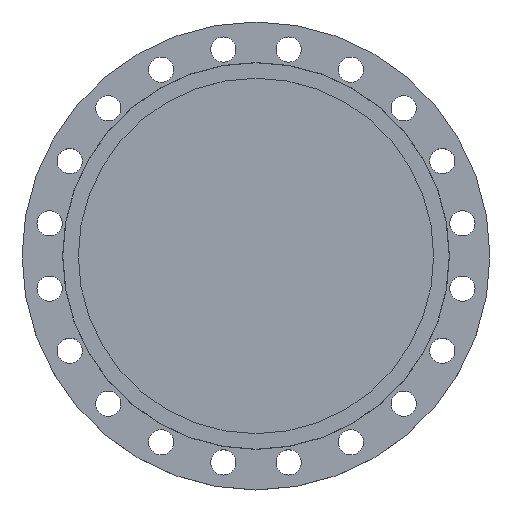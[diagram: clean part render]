
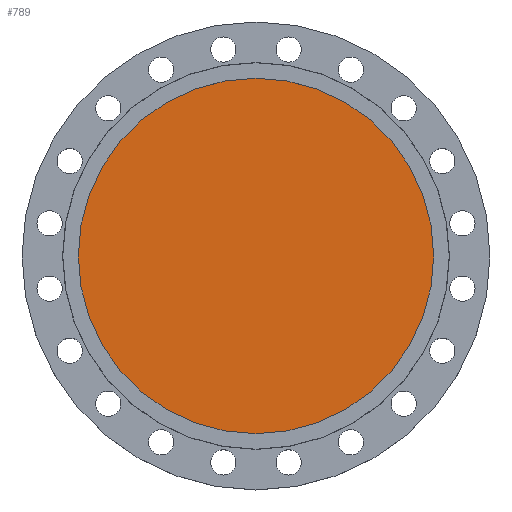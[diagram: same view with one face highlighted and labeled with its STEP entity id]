
A CAD part, top view. The second image highlights one B-rep face of the part: STEP entity #789.
In plain terms, the highlighted planar face has unit normal (0, 0, 1).
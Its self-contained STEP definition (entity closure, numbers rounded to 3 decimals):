
#127 = CARTESIAN_POINT ( 'NONE',  ( -338., 0., -5. ) ) ;
#137 = CARTESIAN_POINT ( 'NONE',  ( 338., 0., -5. ) ) ;
#152 = DIRECTION ( 'NONE',  ( 0., 0., -1. ) ) ;
#227 = AXIS2_PLACEMENT_3D ( 'NONE', #702, #701, #700 ) ;
#516 = AXIS2_PLACEMENT_3D ( 'NONE', #1242, #152, #871 ) ;
#540 = DIRECTION ( 'NONE',  ( -1., 0., 0. ) ) ;
#542 = DIRECTION ( 'NONE',  ( 0., 0., -1. ) ) ;
#543 = CARTESIAN_POINT ( 'NONE',  ( 0., 0., -5. ) ) ;
#588 = CIRCLE ( 'NONE', #516, 338. ) ;
#700 = DIRECTION ( 'NONE',  ( 1., 0., 0. ) ) ;
#701 = DIRECTION ( 'NONE',  ( 0., 0., 1. ) ) ;
#702 = CARTESIAN_POINT ( 'NONE',  ( 338., 0., -5. ) ) ;
#704 = PLANE ( 'NONE',  #227 ) ;
#706 = FACE_OUTER_BOUND ( 'NONE', #1074, .T. ) ;
#789 = ADVANCED_FACE ( 'NONE', ( #706 ), #704, .T. ) ;
#871 = DIRECTION ( 'NONE',  ( -1., 0., 0. ) ) ;
#1061 = EDGE_CURVE ( 'NONE', #1573, #1582, #1424, .T. ) ;
#1074 = EDGE_LOOP ( 'NONE', ( #1076, #1075 ) ) ;
#1075 = ORIENTED_EDGE ( 'NONE', *, *, #1061, .F. ) ;
#1076 = ORIENTED_EDGE ( 'NONE', *, *, #1767, .F. ) ;
#1242 = CARTESIAN_POINT ( 'NONE',  ( 0., 0., -5. ) ) ;
#1424 = CIRCLE ( 'NONE', #1426, 338. ) ;
#1426 = AXIS2_PLACEMENT_3D ( 'NONE', #543, #542, #540 ) ;
#1573 = VERTEX_POINT ( 'NONE', #137 ) ;
#1582 = VERTEX_POINT ( 'NONE', #127 ) ;
#1767 = EDGE_CURVE ( 'NONE', #1582, #1573, #588, .T. ) ;
